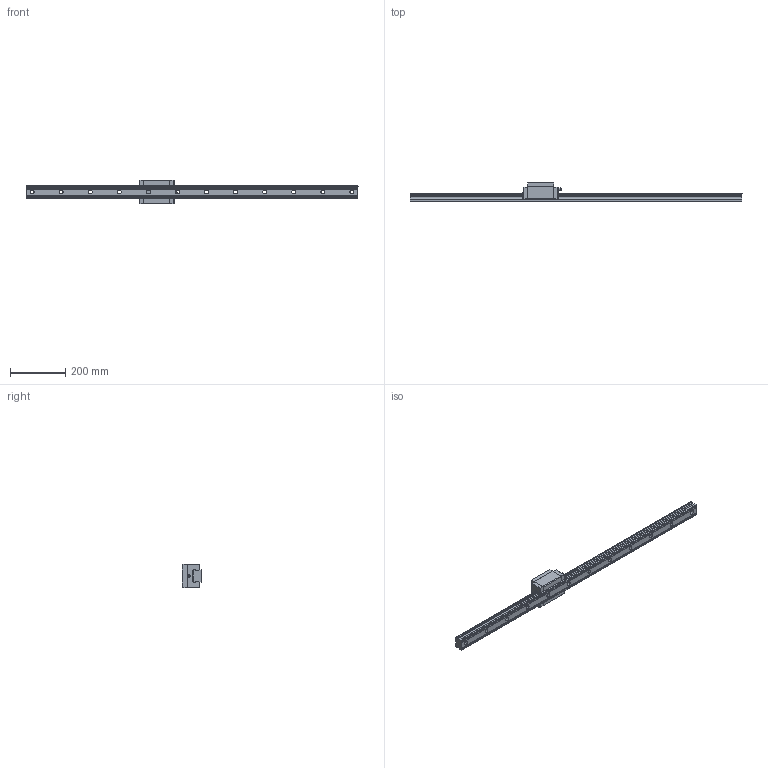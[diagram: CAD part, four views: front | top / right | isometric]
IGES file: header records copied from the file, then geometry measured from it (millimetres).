
Start section: SolidWorks IGES file using analytic representation for surfaces
Global section: file name: C:\Users\tsuch\OneDrive\デスクトップ\EG45関連修正(3D)\EGH45.IGS; native system: SolidWorks 2019; preprocessor: SolidWorks 2019; author: tsuch; date: 210706.173836; units: millimetre
Bounding box: 1200 x 70 x 86 mm (x, y, z)
Surface area: 279508.3 mm2 (no closed solid volume)
Topology: 0 solids, 0 shells, 376 faces, 4837 edges, 4829 vertices
Faces by surface type: revolution 192, bspline 184
